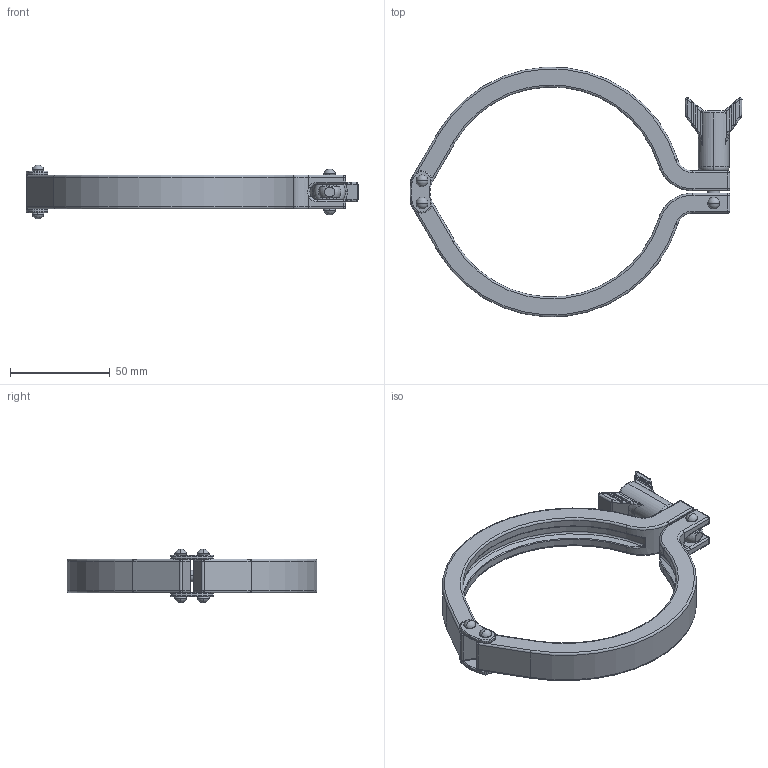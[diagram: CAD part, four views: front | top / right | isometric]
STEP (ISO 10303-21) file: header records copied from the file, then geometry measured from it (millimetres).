
FILE_DESCRIPTION (( 'STEP AP203' ), '1' );
FILE_NAME ('13MHHMD4.0.STEP', '2020-02-13T01:57:39', ( '' ), ( '' ), 'SwSTEP 2.0', 'SolidWorks 2014', '' );
FILE_SCHEMA (( 'CONFIG_CONTROL_DESIGN' ));
Length unit declared in the file: millimetre
Products named in the file (10): 13MHHD-PARTS; 13MHHD-PARTS-1; 13MHHM-PART-4; 13MHHD-PARTS-3; 13MHHD-2; Wing Nut 11; 13MHHD-PARTS-2; 13MHHMD4.0; 13MHHD4.0-1; 13MHHD4.0-2
Assembly tree (12 placements, depth 2):
  13MHHMD4.0
    13MHHD4.0-1
    13MHHD-PARTS  x2
    13MHHD-PARTS-1  x2
    13MHHD-PARTS-2
    13MHHD-PARTS-3
    13MHHD-2  x2
    13MHHD4.0-2
    13MHHM-PART-4
    Wing Nut 11
Bounding box: 166.17 x 124.94 x 27 mm (x, y, z)
Volume: 68860.1 mm3; surface area: 30817.1 mm2
Topology: 12 solids, 12 shells, 474 faces, 1111 edges, 628 vertices
Faces by surface type: cylinder 175, torus 94, bspline 80, plane 73, sphere 48, cone 4
Entity records: 16593 total; most frequent: CARTESIAN_POINT 6197, DIRECTION 2023, ORIENTED_EDGE 1926, EDGE_CURVE 963, AXIS2_PLACEMENT_3D 874, VERTEX_POINT 556, CIRCLE 508, EDGE_LOOP 453
